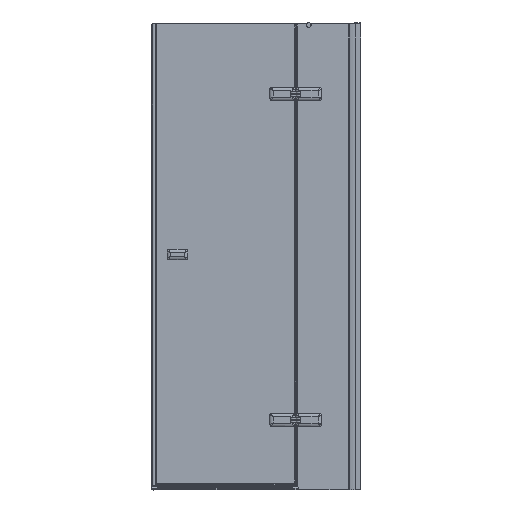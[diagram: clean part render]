
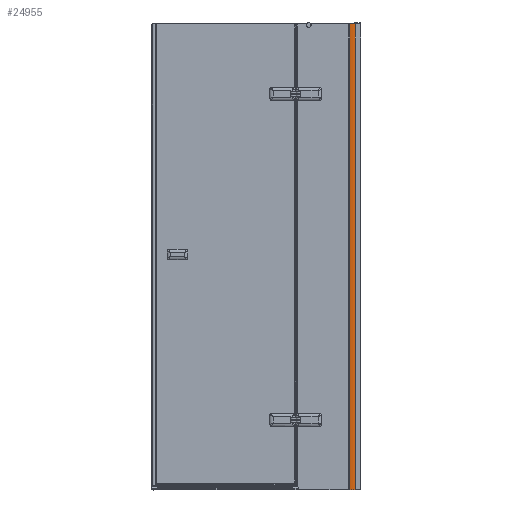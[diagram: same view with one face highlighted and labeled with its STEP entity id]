
A CAD part, front view. The second image highlights one B-rep face of the part: STEP entity #24955.
In plain terms, the highlighted cylindrical face has radius 92 mm (diameter 184 mm), a partial arc.
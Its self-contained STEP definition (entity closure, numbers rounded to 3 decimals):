
#1125=CIRCLE($,#26919,92.);
#1143=CIRCLE($,#26943,92.);
#1565=CYLINDRICAL_SURFACE($,#26942,92.);
#2522=FACE_OUTER_BOUND($,#3983,.T.);
#3983=EDGE_LOOP($,(#19501,#19502,#19503,#19504));
#6198=LINE($,#55544,#8419);
#6200=LINE($,#55548,#8421);
#8419=VECTOR($,#32003,2000.);
#8421=VECTOR($,#32007,2000.);
#10796=VERTEX_POINT($,#55446);
#10797=VERTEX_POINT($,#55448);
#10837=VERTEX_POINT($,#55543);
#10838=VERTEX_POINT($,#55547);
#13799=EDGE_CURVE($,#10796,#10797,#1125,.T.);
#13849=EDGE_CURVE($,#10797,#10837,#6198,.T.);
#13851=EDGE_CURVE($,#10796,#10838,#6200,.T.);
#13852=EDGE_CURVE($,#10838,#10837,#1143,.T.);
#19501=ORIENTED_EDGE($,*,*,#13799,.F.);
#19502=ORIENTED_EDGE($,*,*,#13851,.T.);
#19503=ORIENTED_EDGE($,*,*,#13852,.T.);
#19504=ORIENTED_EDGE($,*,*,#13849,.F.);
#24955=ADVANCED_FACE($,(#2522),#1565,.T.);
#26919=AXIS2_PLACEMENT_3D($,#55449,#31925,#31926);
#26942=AXIS2_PLACEMENT_3D($,#55546,#32005,#32006);
#26943=AXIS2_PLACEMENT_3D($,#55549,#32008,#32009);
#31925=DIRECTION('center_axis',(0.,0.,
1.));
#31926=DIRECTION('ref_axis',(-0.275,-0.961,0.));
#32003=DIRECTION($,(0.,0.,-1.));
#32005=DIRECTION('center_axis',(0.,0.,
1.));
#32006=DIRECTION('ref_axis',(-0.275,-0.961,0.));
#32007=DIRECTION($,(0.,0.,-1.));
#32008=DIRECTION('center_axis',(0.,0.,
1.));
#32009=DIRECTION('ref_axis',(-0.275,-0.961,0.));
#55446=CARTESIAN_POINT('',(2284.31,35.708,1485.944));
#55448=CARTESIAN_POINT('',(2309.626,32.156,1485.944));
#55449=CARTESIAN_POINT('Origin',(2309.626,124.156,1485.944));
#55543=CARTESIAN_POINT('',(2309.626,32.156,-514.056));
#55544=CARTESIAN_POINT($,(2309.626,32.156,1485.944));
#55546=CARTESIAN_POINT('Origin',(2309.626,124.156,1485.944));
#55547=CARTESIAN_POINT('',(2284.31,35.708,-514.056));
#55548=CARTESIAN_POINT($,(2284.31,35.708,1485.944));
#55549=CARTESIAN_POINT('Origin',(2309.626,124.156,-514.056));
